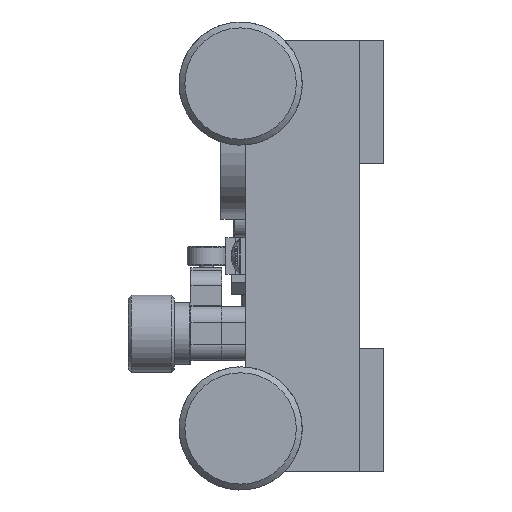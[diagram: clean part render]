
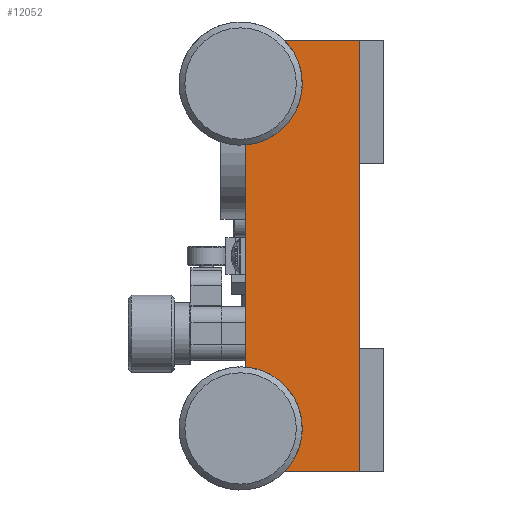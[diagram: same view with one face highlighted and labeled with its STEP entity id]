
A CAD part, left-side view. The second image highlights one B-rep face of the part: STEP entity #12052.
In plain terms, the highlighted planar face has unit normal (-1, 0, 0).
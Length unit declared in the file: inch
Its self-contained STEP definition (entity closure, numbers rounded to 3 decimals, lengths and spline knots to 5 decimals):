
#6384=CARTESIAN_POINT('',(-2.75,-0.5,0.875));
#6385=VERTEX_POINT('',#6384);
#6392=CARTESIAN_POINT('',(-2.75,-0.5,-0.875));
#6393=VERTEX_POINT('',#6392);
#6394=CARTESIAN_POINT('',(-2.75,-0.5,-0.0));
#6395=DIRECTION('',(-0.0,-0.0,1.0));
#6396=VECTOR('',#6395,1.0);
#6397=LINE('',#6394,#6396);
#6398=EDGE_CURVE('',#6393,#6385,#6397,.T.);
#7777=CARTESIAN_POINT('',(-2.75,-0.038,-0.52514));
#7778=VERTEX_POINT('',#7777);
#7785=CARTESIAN_POINT('',(-2.75,-0.038,0.52514));
#7786=VERTEX_POINT('',#7785);
#7787=CARTESIAN_POINT('',(-2.75,-0.038,-0.0));
#7788=DIRECTION('',(0.0,0.0,-1.0));
#7789=VECTOR('',#7788,1.0);
#7790=LINE('',#7787,#7789);
#7791=EDGE_CURVE('',#7786,#7778,#7790,.T.);
#8442=CARTESIAN_POINT('',(-2.75,0.082,0.875));
#8443=VERTEX_POINT('',#8442);
#8450=CARTESIAN_POINT('',(-2.75,-0.3845,0.875));
#8451=DIRECTION('',(0.0,1.0,-0.0));
#8452=VECTOR('',#8451,1.0);
#8453=LINE('',#8450,#8452);
#8454=EDGE_CURVE('',#6385,#8443,#8453,.T.);
#11944=ORIENTED_EDGE('',*,*,#6398,.T.);
#11945=ORIENTED_EDGE('',*,*,#8454,.T.);
#11946=CARTESIAN_POINT('',(-2.75,0.132,0.825));
#11947=VERTEX_POINT('',#11946);
#11948=CARTESIAN_POINT('',(-2.75,0.16775,0.78925));
#11949=DIRECTION('',(0.0,0.707,-0.707));
#11950=VECTOR('',#11949,1.0);
#11951=LINE('',#11948,#11950);
#11952=EDGE_CURVE('',#8443,#11947,#11951,.T.);
#11953=ORIENTED_EDGE('',*,*,#11952,.T.);
#11954=CARTESIAN_POINT('',(-2.75,0.132,0.57514));
#11955=VERTEX_POINT('',#11954);
#11956=CARTESIAN_POINT('',(-2.75,0.132,-0.0));
#11957=DIRECTION('',(0.0,0.0,-1.0));
#11958=VECTOR('',#11957,1.0);
#11959=LINE('',#11956,#11958);
#11960=EDGE_CURVE('',#11947,#11955,#11959,.T.);
#11961=ORIENTED_EDGE('',*,*,#11960,.T.);
#11962=CARTESIAN_POINT('',(-2.75,0.082,0.52514));
#11963=VERTEX_POINT('',#11962);
#11964=CARTESIAN_POINT('',(-2.75,-0.18228,0.26085));
#11965=DIRECTION('',(0.0,-0.707,-0.707));
#11966=VECTOR('',#11965,1.0);
#11967=LINE('',#11964,#11966);
#11968=EDGE_CURVE('',#11955,#11963,#11967,.T.);
#11969=ORIENTED_EDGE('',*,*,#11968,.T.);
#11970=CARTESIAN_POINT('',(-2.75,-0.038,0.52514));
#11971=DIRECTION('',(-0.0,1.0,-0.0));
#11972=VECTOR('',#11971,1.0);
#11973=LINE('',#11970,#11972);
#11974=EDGE_CURVE('',#7786,#11963,#11973,.T.);
#11975=ORIENTED_EDGE('',*,*,#11974,.F.);
#11976=ORIENTED_EDGE('',*,*,#7791,.T.);
#11977=CARTESIAN_POINT('',(-2.75,0.082,-0.52514));
#11978=VERTEX_POINT('',#11977);
#11979=CARTESIAN_POINT('',(-2.75,-0.038,-0.52514));
#11980=DIRECTION('',(0.0,-1.0,0.0));
#11981=VECTOR('',#11980,1.0);
#11982=LINE('',#11979,#11981);
#11983=EDGE_CURVE('',#11978,#7778,#11982,.T.);
#11984=ORIENTED_EDGE('',*,*,#11983,.F.);
#11985=CARTESIAN_POINT('',(-2.75,0.132,-0.57514));
#11986=VERTEX_POINT('',#11985);
#11987=CARTESIAN_POINT('',(-2.75,-0.18228,-0.26085));
#11988=DIRECTION('',(0.0,0.707,-0.707));
#11989=VECTOR('',#11988,1.0);
#11990=LINE('',#11987,#11989);
#11991=EDGE_CURVE('',#11978,#11986,#11990,.T.);
#11992=ORIENTED_EDGE('',*,*,#11991,.T.);
#11993=CARTESIAN_POINT('',(-2.75,0.132,-0.825));
#11994=VERTEX_POINT('',#11993);
#11995=CARTESIAN_POINT('',(-2.75,0.132,-0.0));
#11996=DIRECTION('',(0.0,-0.0,-1.0));
#11997=VECTOR('',#11996,1.0);
#11998=LINE('',#11995,#11997);
#11999=EDGE_CURVE('',#11986,#11994,#11998,.T.);
#12000=ORIENTED_EDGE('',*,*,#11999,.T.);
#12001=CARTESIAN_POINT('',(-2.75,0.082,-0.875));
#12002=VERTEX_POINT('',#12001);
#12003=CARTESIAN_POINT('',(-2.75,0.16775,-0.78925));
#12004=DIRECTION('',(0.0,-0.707,-0.707));
#12005=VECTOR('',#12004,1.0);
#12006=LINE('',#12003,#12005);
#12007=EDGE_CURVE('',#11994,#12002,#12006,.T.);
#12008=ORIENTED_EDGE('',*,*,#12007,.T.);
#12009=CARTESIAN_POINT('',(-2.75,-0.3845,-0.875));
#12010=DIRECTION('',(-0.0,-1.0,0.0));
#12011=VECTOR('',#12010,1.0);
#12012=LINE('',#12009,#12011);
#12013=EDGE_CURVE('',#12002,#6393,#12012,.T.);
#12014=ORIENTED_EDGE('',*,*,#12013,.T.);
#12015=EDGE_LOOP('',(#11944,#11945,#11953,#11961,#11969,#11975,#11976,#11984,#11992,#12000,#12008,#12014));
#12016=FACE_OUTER_BOUND('',#12015,.T.);
#12017=CARTESIAN_POINT('',(-2.75,-0.018,-0.575));
#12018=VERTEX_POINT('',#12017);
#12019=CARTESIAN_POINT('',(-2.75,-0.018,-0.825));
#12020=VERTEX_POINT('',#12019);
#12021=CARTESIAN_POINT('',(-2.75,-0.018,-0.7));
#12022=DIRECTION('',(-1.0,-0.0,-0.0));
#12023=DIRECTION('',(0.0,0.0,-1.0));
#12024=AXIS2_PLACEMENT_3D('',#12021,#12022,#12023);
#12025=CIRCLE('',#12024,0.125);
#12026=EDGE_CURVE('',#12018,#12020,#12025,.T.);
#12027=ORIENTED_EDGE('',*,*,#12026,.F.);
#12028=EDGE_CURVE('',#12020,#12018,#12025,.T.);
#12029=ORIENTED_EDGE('',*,*,#12028,.F.);
#12030=EDGE_LOOP('',(#12027,#12029));
#12031=FACE_BOUND('',#12030,.T.);
#12032=CARTESIAN_POINT('',(-2.75,-0.018,0.82514));
#12033=VERTEX_POINT('',#12032);
#12034=CARTESIAN_POINT('',(-2.75,-0.018,0.57514));
#12035=VERTEX_POINT('',#12034);
#12036=CARTESIAN_POINT('',(-2.75,-0.018,0.70014));
#12037=DIRECTION('',(-1.0,-0.0,-0.0));
#12038=DIRECTION('',(0.0,0.0,-1.0));
#12039=AXIS2_PLACEMENT_3D('',#12036,#12037,#12038);
#12040=CIRCLE('',#12039,0.125);
#12041=EDGE_CURVE('',#12033,#12035,#12040,.T.);
#12042=ORIENTED_EDGE('',*,*,#12041,.F.);
#12043=EDGE_CURVE('',#12035,#12033,#12040,.T.);
#12044=ORIENTED_EDGE('',*,*,#12043,.F.);
#12045=EDGE_LOOP('',(#12042,#12044));
#12046=FACE_BOUND('',#12045,.T.);
#12047=CARTESIAN_POINT('',(-2.75,-0.5,0.0));
#12048=DIRECTION('',(-1.0,0.0,-0.0));
#12049=DIRECTION('',(-0.0,1.0,0.0));
#12050=AXIS2_PLACEMENT_3D('',#12047,#12048,#12049);
#12051=PLANE('',#12050);
#12052=ADVANCED_FACE('',(#12016,#12031,#12046),#12051,.T.);
